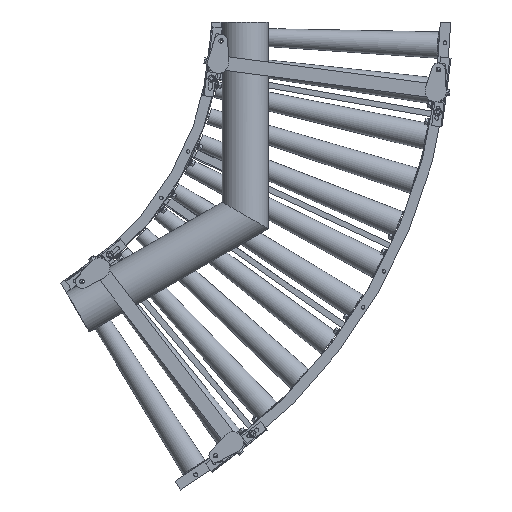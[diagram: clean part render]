
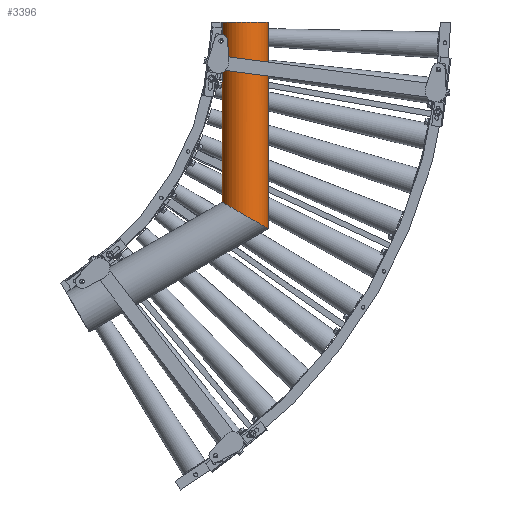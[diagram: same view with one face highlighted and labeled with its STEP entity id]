
A CAD part, front view. The second image highlights one B-rep face of the part: STEP entity #3396.
In plain terms, the highlighted cylindrical face has radius 67.024 mm (diameter 134.048 mm), a partial arc.
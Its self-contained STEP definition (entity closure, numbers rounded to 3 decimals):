
#3396=ADVANCED_FACE('',(#25577),#25576,.T.);
#25576=CYLINDRICAL_SURFACE('',#37346,67.024);
#25577=FACE_OUTER_BOUND('',#37347,.T.);
#37343=CARTESIAN_POINT('',(967.,-156.676,0.));
#37344=DIRECTION('',(0.,0.,1.));
#37345=DIRECTION('',(1.,0.,0.));
#37346=AXIS2_PLACEMENT_3D('',#37343,#37344,#37345);
#37347=EDGE_LOOP('',(#48093,#48094,#48095,#48096));
#48093=ORIENTED_EDGE('',*,*,#53595,.F.);
#48094=ORIENTED_EDGE('',*,*,#53587,.F.);
#48095=ORIENTED_EDGE('',*,*,#53596,.T.);
#48096=ORIENTED_EDGE('',*,*,#53590,.F.);
#53587=EDGE_CURVE('',#89147,#89148,#89149,.T.);
#53590=EDGE_CURVE('',#89167,#89168,#89169,.T.);
#53595=EDGE_CURVE('',#89148,#89167,#89199,.T.);
#53596=EDGE_CURVE('',#89147,#89168,#89205,.T.);
#89147=VERTEX_POINT('',#114249);
#89148=VERTEX_POINT('',#114250);
#89149=CIRCLE('',#114254,67.024);
#89167=VERTEX_POINT('',#114261);
#89168=VERTEX_POINT('',#114262);
#89169=(BOUNDED_CURVE() B_SPLINE_CURVE(2,(#114263,#114264,#114265,#114266,#114267),.UNSPECIFIED.,.F.,.F.) B_SPLINE_CURVE_WITH_KNOTS((3,2,3),(0.147,1.571,2.994),.UNSPECIFIED.) CURVE() GEOMETRIC_REPRESENTATION_ITEM() RATIONAL_B_SPLINE_CURVE((1.,0.757,1.,0.757,1.)) REPRESENTATION_ITEM('') );
#89199=LINE('',#114280,#114281);
#89205=LINE('',#114283,#114284);
#114249=CARTESIAN_POINT('',(900.7,-166.5,0.));
#114250=CARTESIAN_POINT('',(1033.3,-166.5,0.));
#114251=CARTESIAN_POINT('',(967.,-156.676,0.));
#114252=DIRECTION('',(0.,0.,1.));
#114253=DIRECTION('',(-1.,0.,0.));
#114254=AXIS2_PLACEMENT_3D('',#114251,#114252,#114253);
#114261=CARTESIAN_POINT('',(1033.3,-166.5,-596.576));
#114262=CARTESIAN_POINT('',(900.7,-166.5,-520.019));
#114263=CARTESIAN_POINT('',(1033.3,-166.5,-596.576));
#114264=CARTESIAN_POINT('',(1024.825,-223.7,-591.683));
#114265=CARTESIAN_POINT('',(967.,-223.7,-558.298));
#114266=CARTESIAN_POINT('',(909.175,-223.7,-524.913));
#114267=CARTESIAN_POINT('',(900.7,-166.5,-520.019));
#114280=CARTESIAN_POINT('',(1033.3,-166.5,0.));
#114281=VECTOR('',#114282,596.576);
#114282=DIRECTION('',(0.,0.,-1.));
#114283=CARTESIAN_POINT('',(900.7,-166.5,0.));
#114284=VECTOR('',#114285,520.019);
#114285=DIRECTION('',(0.,0.,-1.));
